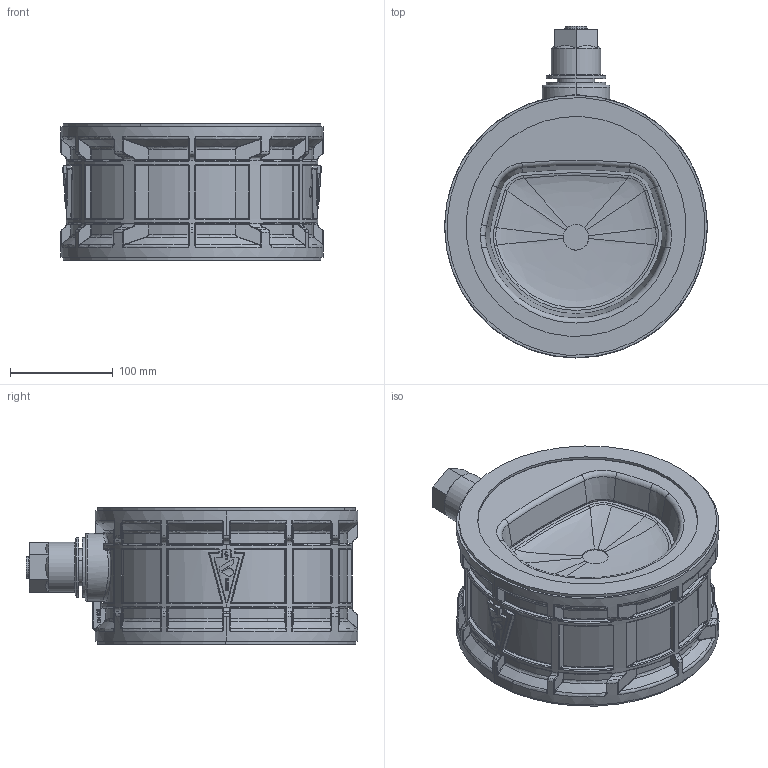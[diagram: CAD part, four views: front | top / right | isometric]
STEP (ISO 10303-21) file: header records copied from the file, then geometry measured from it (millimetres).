
FILE_DESCRIPTION (( 'STEP AP203' ), '1' );
FILE_NAME ('Assembly_NR-010_8.STEP', '2019-07-03T12:36:53', ( '' ), ( '' ), 'SwSTEP 2.0', 'SolidWorks 2016', '' );
FILE_SCHEMA (( 'CONFIG_CONTROL_DESIGN' ));
Products named in the file (2): Assembly_NR-010_8
Bounding box: 256 x 323.54 x 133 mm (x, y, z)
Surface area: 385465.7 mm2 (no closed solid volume)
Topology: 0 solids, 33 shells, 1750 faces, 5680 edges, 3679 vertices
Faces by surface type: bspline 732, cylinder 367, plane 255, torus 235, cone 134, sphere 27
Entity records: 92394 total; most frequent: CARTESIAN_POINT 51010, ORIENTED_EDGE 8925, DIRECTION 7013, EDGE_CURVE 5621, VERTEX_POINT 3679, AXIS2_PLACEMENT_3D 2979, B_SPLINE_CURVE_WITH_KNOTS 2445, CIRCLE 1959
